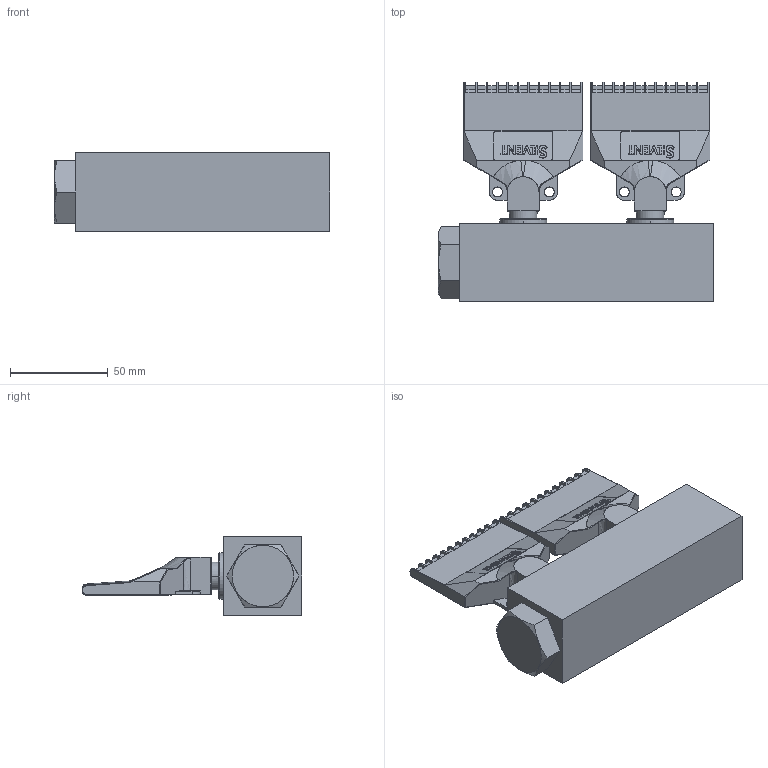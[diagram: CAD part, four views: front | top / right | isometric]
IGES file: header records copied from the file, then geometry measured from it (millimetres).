
Start section: SolidWorks IGES file using analytic representation for surfaces
Global section: file name: G:\Silvent\Ritningar\Övrigt\IGES\Silvent 372.IGS; native system: SolidWorks 2006 by SolidWorks Corporation; preprocessor: SolidWorks 2006 by SolidWorks Corporation; author: SilvRaTi; date: 061220.090132; units: millimetre
Bounding box: 141 x 112.5 x 40 mm (x, y, z)
Surface area: 65467.5 mm2 (no closed solid volume)
Topology: 0 solids, 0 shells, 670 faces, 6158 edges, 6154 vertices
Faces by surface type: bspline 380, revolution 290
